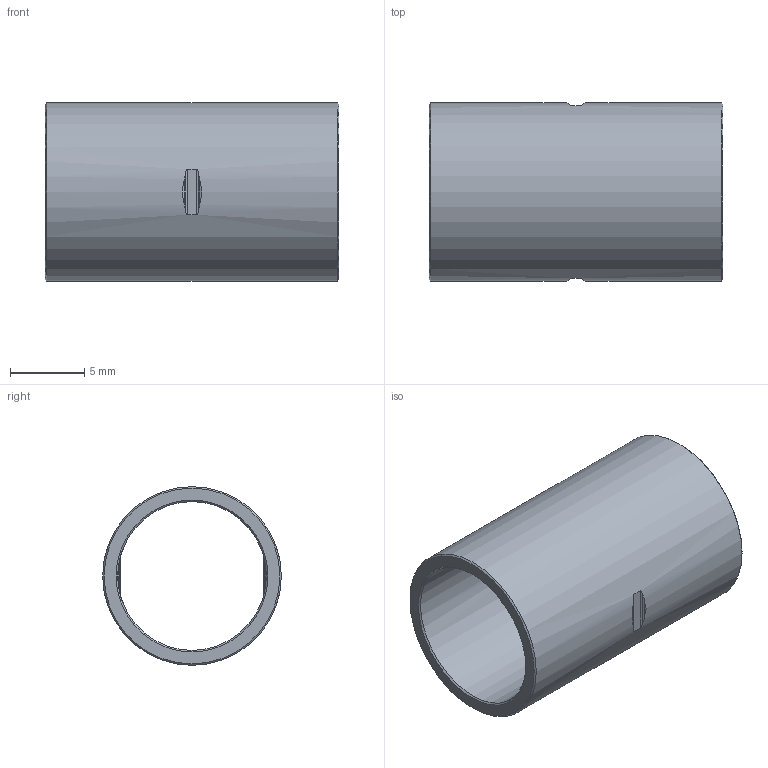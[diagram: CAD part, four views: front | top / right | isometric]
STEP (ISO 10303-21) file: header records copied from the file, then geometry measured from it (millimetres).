
FILE_DESCRIPTION((''),'2;1');
FILE_NAME('G:\SANHA-TERNAT\Technik\Management\Bouwmaten\z-maattekeningen 3D\imate 5000s\15270..._\1527010.stp','2009-10-19T09:10:04',('vdvijverd'),(''),'Autodesk Inventor 2009','Autodesk Inventor 2009','');
FILE_SCHEMA(('AUTOMOTIVE_DESIGN { 1 0 10303 214 1 1 1 1 }'));
Length unit declared in the file: millimetre
Products named in the file (1): 1527010
Bounding box: 19.75 x 12 x 12 mm (x, y, z)
Volume: 681.7 mm3; surface area: 1426.9 mm2
Topology: 1 solids, 1 shells, 36 faces, 96 edges, 64 vertices
Faces by surface type: bspline 14, cylinder 10, plane 8, cone 4
Full cylindrical faces by diameter (mm): 10 x1, 12 x1
Entity records: 1334 total; most frequent: CARTESIAN_POINT 523, ORIENTED_EDGE 176, DIRECTION 126, EDGE_CURVE 88, VERTEX_POINT 64, EDGE_LOOP 48, AXIS2_PLACEMENT_3D 47, FACE_OUTER_BOUND 36
